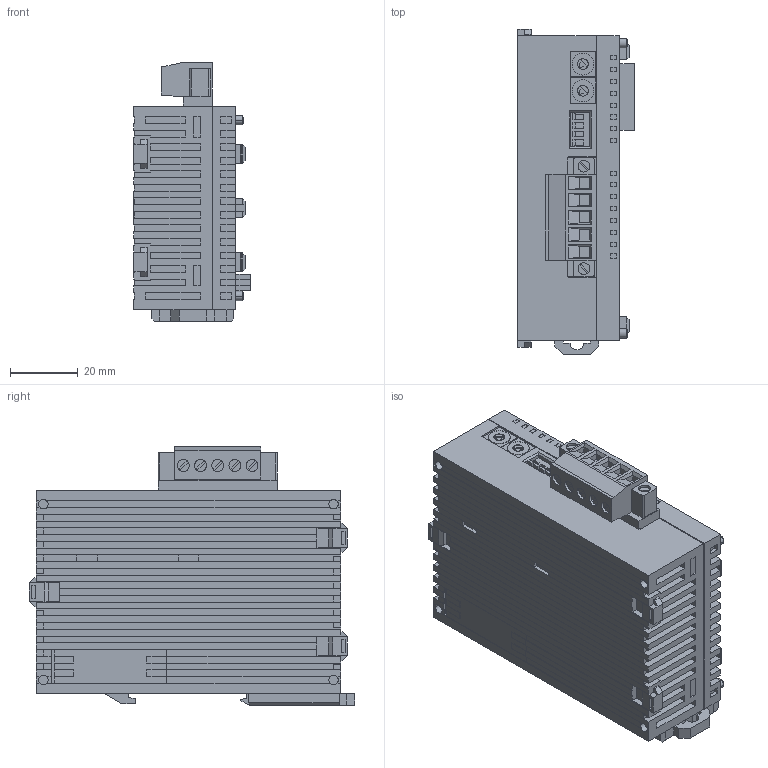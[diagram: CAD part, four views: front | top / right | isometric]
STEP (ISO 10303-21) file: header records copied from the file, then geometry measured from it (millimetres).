
FILE_DESCRIPTION (( 'STEP AP214' ), '1' );
FILE_NAME ('afpg7943.step', '2009-08-25T05:56:27', ( '' ), ( 'PanasonicElectricWorks' ), '', '', '' );
FILE_SCHEMA (( 'AUTOMOTIVE_DESIGN' ));
Length unit declared in the file: millimetre
Products named in the file (1): afpg7943
Bounding box: 34.5 x 96.1 x 76.5 mm (x, y, z)
Volume: 165757.4 mm3; surface area: 27954.5 mm2
Topology: 1 solids, 1 shells, 1003 faces, 2675 edges, 1752 vertices
Faces by surface type: plane 936, cylinder 59, cone 8
Entity records: 41673 total; most frequent: CARTESIAN_POINT 5431, ORIENTED_EDGE 5350, DIRECTION 4871, EDGE_CURVE 2675, LINE 2487, VECTOR 2487, VERTEX_POINT 1752, AXIS2_PLACEMENT_3D 1192
